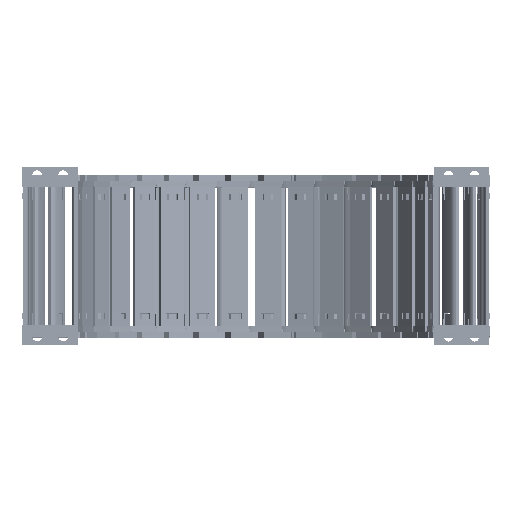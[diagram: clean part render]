
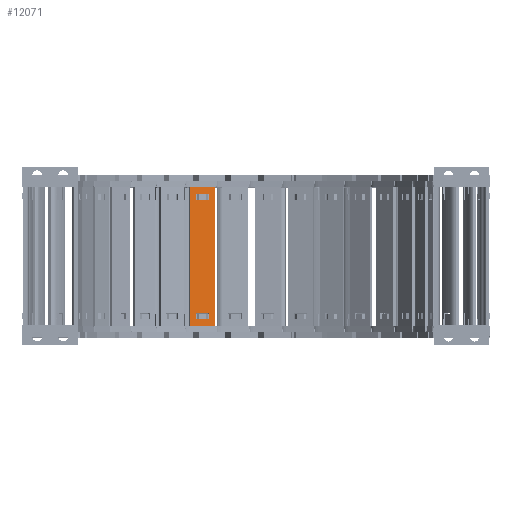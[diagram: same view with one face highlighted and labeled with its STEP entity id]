
A CAD part, top view. The second image highlights one B-rep face of the part: STEP entity #12071.
In plain terms, the highlighted planar face has unit normal (0.276, 0, 0.961).
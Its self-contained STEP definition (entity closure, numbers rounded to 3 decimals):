
#93=FACE_BOUND('',#29521,.T.);
#94=FACE_BOUND('',#29522,.T.);
#95=FACE_BOUND('',#29523,.T.);
#6626=PLANE('',#157334);
#12071=ADVANCED_FACE('',(#93,#94,#95),#6626,.F.);
#29521=EDGE_LOOP('',(#43709,#43710,#43711,#43712));
#29522=EDGE_LOOP('',(#43713,#43714,#43715,#43716));
#29523=EDGE_LOOP('',(#43717,#43718,#43719,#43720));
#43709=ORIENTED_EDGE('',*,*,#104001,.F.);
#43710=ORIENTED_EDGE('',*,*,#103972,.F.);
#43711=ORIENTED_EDGE('',*,*,#104006,.F.);
#43712=ORIENTED_EDGE('',*,*,#103983,.F.);
#43713=ORIENTED_EDGE('',*,*,#104018,.F.);
#43714=ORIENTED_EDGE('',*,*,#104011,.F.);
#43715=ORIENTED_EDGE('',*,*,#104050,.F.);
#43716=ORIENTED_EDGE('',*,*,#104025,.T.);
#43717=ORIENTED_EDGE('',*,*,#104048,.T.);
#43718=ORIENTED_EDGE('',*,*,#104051,.F.);
#43719=ORIENTED_EDGE('',*,*,#104052,.F.);
#43720=ORIENTED_EDGE('',*,*,#104053,.F.);
#88544=VERTEX_POINT('',#216627);
#88545=VERTEX_POINT('',#216629);
#88551=VERTEX_POINT('',#216644);
#88554=VERTEX_POINT('',#216650);
#88571=VERTEX_POINT('',#216707);
#88572=VERTEX_POINT('',#216708);
#88578=VERTEX_POINT('',#216722);
#88581=VERTEX_POINT('',#216730);
#88594=VERTEX_POINT('',#216777);
#88595=VERTEX_POINT('',#216779);
#88596=VERTEX_POINT('',#216784);
#88597=VERTEX_POINT('',#216786);
#103972=EDGE_CURVE('',#88544,#88545,#126762,.T.);
#103983=EDGE_CURVE('',#88554,#88551,#126773,.T.);
#104001=EDGE_CURVE('',#88545,#88554,#126788,.T.);
#104006=EDGE_CURVE('',#88551,#88544,#126793,.T.);
#104011=EDGE_CURVE('',#88571,#88572,#126798,.T.);
#104018=EDGE_CURVE('',#88572,#88578,#126805,.T.);
#104025=EDGE_CURVE('',#88581,#88578,#126812,.T.);
#104048=EDGE_CURVE('',#88595,#88594,#126826,.T.);
#104050=EDGE_CURVE('',#88581,#88571,#126828,.T.);
#104051=EDGE_CURVE('',#88596,#88594,#126829,.T.);
#104052=EDGE_CURVE('',#88597,#88596,#126830,.T.);
#104053=EDGE_CURVE('',#88595,#88597,#126831,.T.);
#126762=LINE('',#216628,#142054);
#126773=LINE('',#216651,#142065);
#126788=LINE('',#216686,#142080);
#126793=LINE('',#216695,#142085);
#126798=LINE('',#216706,#142090);
#126805=LINE('',#216721,#142097);
#126812=LINE('',#216734,#142104);
#126826=LINE('',#216778,#142118);
#126828=LINE('',#216782,#142120);
#126829=LINE('',#216783,#142121);
#126830=LINE('',#216785,#142122);
#126831=LINE('',#216787,#142123);
#142054=VECTOR('',#172519,1.);
#142065=VECTOR('',#172534,1.);
#142080=VECTOR('',#172569,1.);
#142085=VECTOR('',#172578,1.);
#142090=VECTOR('',#172587,1.);
#142097=VECTOR('',#172596,1.);
#142104=VECTOR('',#172605,1.);
#142118=VECTOR('',#172655,1.);
#142120=VECTOR('',#172659,1.);
#142121=VECTOR('',#172660,1.);
#142122=VECTOR('',#172661,1.);
#142123=VECTOR('',#172662,1.);
#157334=AXIS2_PLACEMENT_3D('',#216788,#172663,#172664);
#172519=DIRECTION('',(0.961,0.,-0.276));
#172534=DIRECTION('',(-0.961,0.,0.276));
#172569=DIRECTION('',(0.,1.,0.));
#172578=DIRECTION('',(0.,-1.,0.));
#172587=DIRECTION('',(-0.961,0.,0.276));
#172596=DIRECTION('',(0.,-1.,0.));
#172605=DIRECTION('',(-0.961,0.,0.276));
#172655=DIRECTION('',(0.,-1.,0.));
#172659=DIRECTION('',(0.,1.,0.));
#172660=DIRECTION('',(-0.961,0.,0.276));
#172661=DIRECTION('',(0.,-1.,0.));
#172662=DIRECTION('',(0.961,0.,-0.276));
#172663=DIRECTION('',(-0.276,0.,-0.961));
#172664=DIRECTION('',(-0.961,0.,0.276));
#216627=CARTESIAN_POINT('',(-162.921,-81.03,-123.898));
#216628=CARTESIAN_POINT('',(-162.921,-81.03,-123.898));
#216629=CARTESIAN_POINT('',(-155.087,-81.03,-126.144));
#216644=CARTESIAN_POINT('',(-162.921,-77.382,-123.898));
#216650=CARTESIAN_POINT('',(-155.087,-77.382,-126.144));
#216651=CARTESIAN_POINT('',(-155.087,-77.382,-126.144));
#216686=CARTESIAN_POINT('',(-155.087,-112.46,-126.144));
#216695=CARTESIAN_POINT('',(-162.921,-108.86,-123.898));
#216706=CARTESIAN_POINT('',(-155.087,-3.97,-126.144));
#216707=CARTESIAN_POINT('',(-155.087,-3.97,-126.144));
#216708=CARTESIAN_POINT('',(-162.921,-3.97,-123.898));
#216721=CARTESIAN_POINT('',(-162.921,-3.97,-123.898));
#216722=CARTESIAN_POINT('',(-162.921,-7.618,-123.898));
#216730=CARTESIAN_POINT('',(-155.087,-7.618,-126.144));
#216734=CARTESIAN_POINT('',(-155.087,-7.618,-126.144));
#216777=CARTESIAN_POINT('',(-166.598,-85.,-122.843));
#216778=CARTESIAN_POINT('',(-166.598,0.,-122.843));
#216779=CARTESIAN_POINT('',(-166.598,0.,-122.843));
#216782=CARTESIAN_POINT('',(-155.087,-7.618,-126.144));
#216783=CARTESIAN_POINT('',(-151.41,-85.,-127.198));
#216784=CARTESIAN_POINT('',(-151.41,-85.,-127.198));
#216785=CARTESIAN_POINT('',(-151.41,0.,-127.198));
#216786=CARTESIAN_POINT('',(-151.41,0.,-127.198));
#216787=CARTESIAN_POINT('',(-166.598,0.,-122.843));
#216788=CARTESIAN_POINT('',(-149.333,31.74,-127.794));
